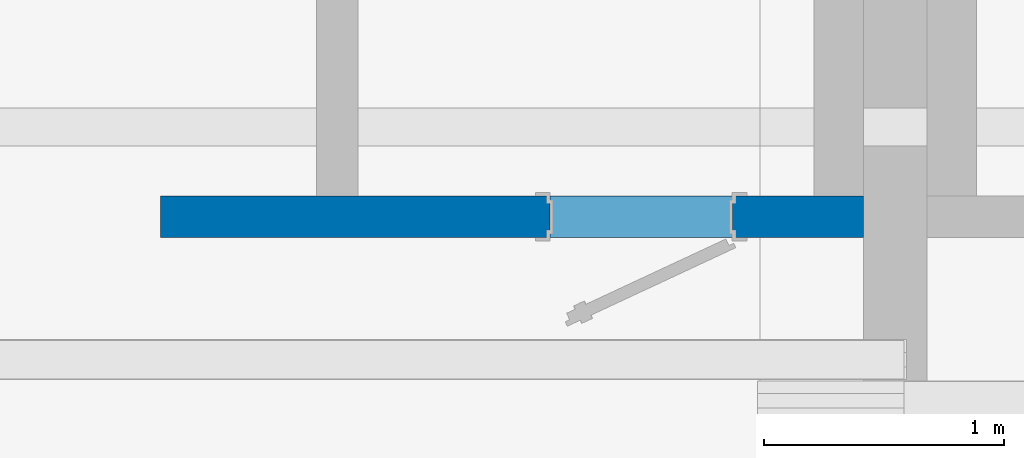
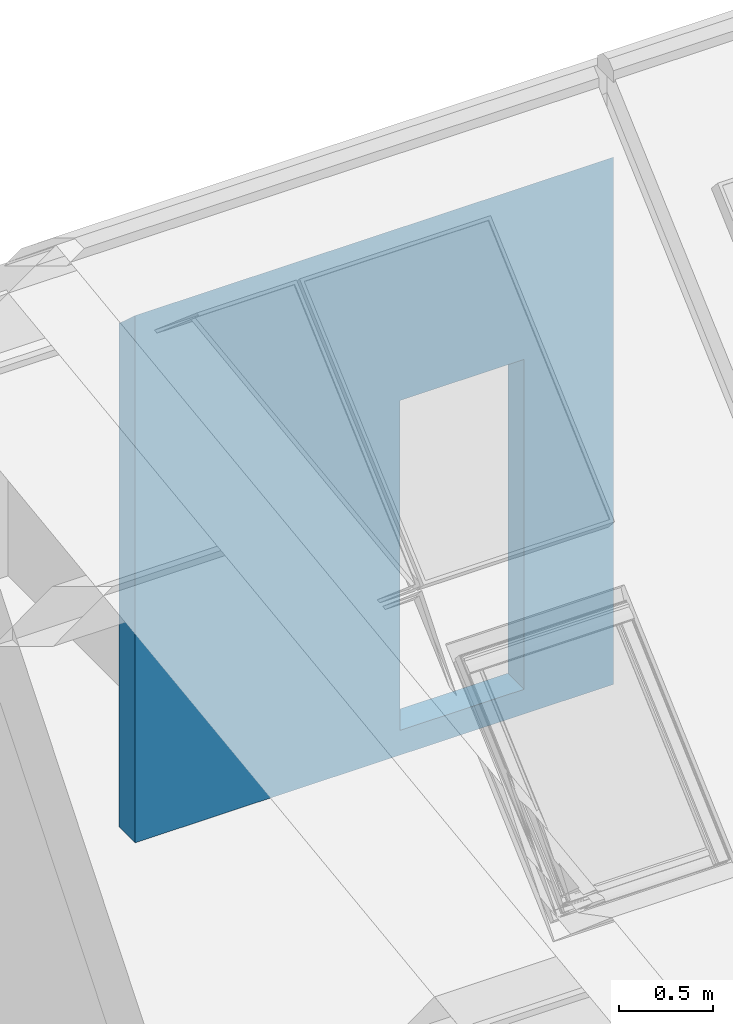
# One storey, part 10 of 43: 1 wall, 1 opening.
"""IFC2X3 building model written with IfcOpenShell, lengths in millimetres."""

from ifc_helpers import new_model, si_unit, frame, origin_with_axes, place, context, project, spatial, faceted_brep, material, layer, layer_set, layer_usage, element, save


model = new_model("IFC2X3")

# Units and contexts
model_context = context("Model", 3, world=origin_with_axes())
ifc_project = project(units=[si_unit("LENGTHUNIT", "METRE", prefix="MILLI")], contexts=[model_context])

# Site, building, storey
site_placement = place(None, origin_with_axes())
site = spatial("IfcSite", under=ifc_project, at=site_placement, Name="Site", CompositionType="ELEMENT")
building_placement = place(site_placement, origin_with_axes())
building = spatial("IfcBuilding", under=site, at=building_placement, Name="?", CompositionType="ELEMENT")
storey_placement = place(building_placement, frame((0.0, 0.0, 5938.0), z_axis=(0.0, 0.0, 1.0), x_axis=(1.0, 0.0, 0.0)))
storey = spatial("IfcBuildingStorey", under=building, at=storey_placement, Name="Dachgeschoß", CompositionType="ELEMENT", Elevation=5938.0)

# Wall, opening
ifc_material = material(Name="Material_IW")
ifc_layer = layer(ifc_material, 172.0, ventilated=False)
ifc_layer_set = layer_set([ifc_layer], Name="MaterialLayerSet_IW")
ifc_layer_usage = layer_usage(ifc_layer_set, "AXIS2", "NEGATIVE", 86.0)
wall_placement = place(storey_placement, frame((9631.0, -2783.0, 0.0), z_axis=(0.0, 0.0, 1.0), x_axis=(-1.0, 0.0, 0.0)))
wall = element("IfcWall", 1, at=wall_placement, inside=storey, material=ifc_layer_usage, Name="IW-45", context=model_context, shape_type="Brep", body=[
    faceted_brep([(2928.0, -86.0, 0.0), (2928.0, -86.0, 3257.94040398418), (431.0, -86.0, 3257.94040398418), (0.0, -86.0, 3257.94040398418), (0.0, -86.0, 0.0), (2928.0, 86.0, 0.0), (2928.0, 86.0, 3412.8095521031), (2928.0, -86.0, 3257.94040398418), (2928.0, -86.0, 0.0), (0.0, 86.0, 0.0), (0.0, 86.0, 3412.8095521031), (431.0, 86.0, 3412.8095521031), (2928.0, 86.0, 3412.8095521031), (2928.0, 86.0, 0.0), (0.0, -86.0, 0.0), (0.0, -86.0, 3257.94040398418), (0.0, 86.0, 3412.8095521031), (0.0, 86.0, 0.0), (0.0, -86.0, 0.0), (0.0, 86.0, 0.0), (2928.0, 86.0, 0.0), (2928.0, -86.0, 0.0), (431.0, 86.0, 3412.8095521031), (0.0, 86.0, 3412.8095521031), (0.0, -86.0000000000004, 3257.94040398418), (431.0, -86.0000000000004, 3257.94040398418), (431.0, 86.0, 3412.8095521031), (431.0, -86.0000000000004, 3257.94040398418), (2928.0, -86.0000000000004, 3257.94040398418), (2928.0, 86.0, 3412.8095521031)], [[[0, 1, 2, 3, 4]], [[5, 6, 7, 8]], [[9, 10, 11, 12, 13]], [[14, 15, 16, 17]], [[18, 19, 20, 21]], [[22, 23, 24, 25]], [[26, 27, 28, 29]]]),
])
opening_placement = place(wall_placement, frame((546.0, 0.0, 160.0), z_axis=(0.0, 0.0, 1.0), x_axis=(1.0, 0.0, 0.0)))
element("IfcOpeningElement", 2, at=opening_placement, cuts=wall, Name="IW-45|IT20", context=model_context, shape_type="Brep", body=[
    faceted_brep([(0.0, 96.0, 0.0), (0.0, 96.0, 2135.0), (760.0, 96.0, 2135.0), (760.0, 96.0, 0.0), (0.0, -96.0, 0.0), (0.0, -96.0, 2135.0), (0.0, 96.0, 2135.0), (0.0, 96.0, 0.0), (760.0, -96.0, 0.0), (0.0, -96.0, 0.0), (0.0, 96.0, 0.0), (760.0, 96.0, 0.0), (760.0, -96.0, 2135.0), (760.0, -96.0, 0.0), (760.0, 96.0, 0.0), (760.0, 96.0, 2135.0), (0.0, -96.0, 2135.0), (760.0, -96.0, 2135.0), (760.0, 96.0, 2135.0), (0.0, 96.0, 2135.0), (0.0, -96.0, 0.0), (760.0, -96.0, 0.0), (760.0, -96.0, 2135.0), (0.0, -96.0, 2135.0)], [[[0, 1, 2, 3]], [[4, 5, 6, 7]], [[8, 9, 10, 11]], [[12, 13, 14, 15]], [[16, 17, 18, 19]], [[20, 21, 22, 23]]]),
])

save(model, "model.ifc")
